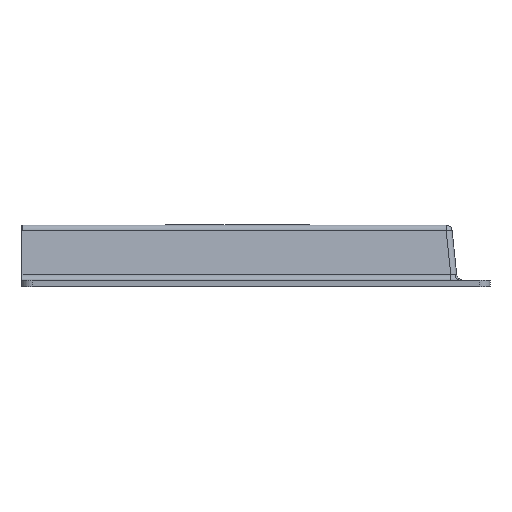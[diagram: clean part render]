
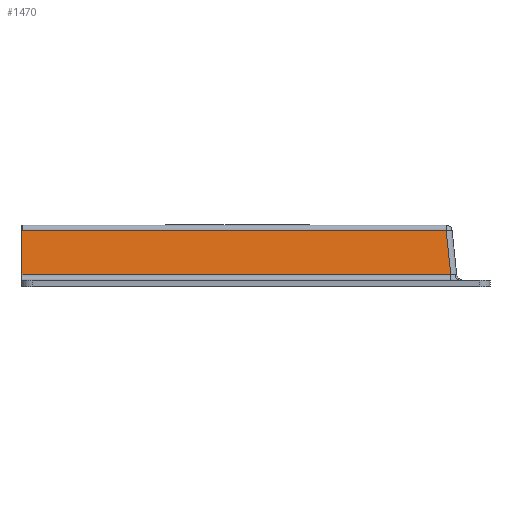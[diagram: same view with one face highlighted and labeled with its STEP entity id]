
A CAD part, left-side view. The second image highlights one B-rep face of the part: STEP entity #1470.
In plain terms, the highlighted planar face has unit normal (-0.995, 0, 0.104).
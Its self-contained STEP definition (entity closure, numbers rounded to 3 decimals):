
#55 = EDGE_CURVE ( 'NONE', #2757, #2841, #5740, .T. ) ;
#165 = EDGE_CURVE ( 'NONE', #2229, #2757, #2255, .T. ) ;
#223 = EDGE_CURVE ( 'NONE', #2808, #2229, #6186, .T. ) ;
#235 = EDGE_CURVE ( 'NONE', #2841, #2808, #6118, .T. ) ;
#594 = CARTESIAN_POINT ( 'NONE',  ( -112.35, -111.366, 6.186 ) ) ;
#971 = CARTESIAN_POINT ( 'NONE',  ( -110.024, -109.041, 28.314 ) ) ;
#1061 = CARTESIAN_POINT ( 'NONE',  ( -110.024, 103.014, 28.314 ) ) ;
#1080 = CARTESIAN_POINT ( 'NONE',  ( -112.35, 103.014, 6.186 ) ) ;
#1147 = VECTOR ( 'NONE', #6095, 1000. ) ;
#1226 = VECTOR ( 'NONE', #2124, 1000. ) ;
#1268 = VECTOR ( 'NONE', #5427, 1000. ) ;
#1343 = AXIS2_PLACEMENT_3D ( 'NONE', #5969, #6044, #5957 ) ;
#1424 = VECTOR ( 'NONE', #6175, 1000. ) ;
#1470 = ADVANCED_FACE ( 'NONE', ( #5974 ), #6043, .T. ) ;
#1693 = ORIENTED_EDGE ( 'NONE', *, *, #55, .T. ) ;
#2124 = DIRECTION ( 'NONE',  ( 0.104, 0.104, 0.989 ) ) ;
#2184 = CARTESIAN_POINT ( 'NONE',  ( -110.546, -109.563, 23.345 ) ) ;
#2229 = VERTEX_POINT ( 'NONE', #594 ) ;
#2255 = LINE ( 'NONE', #2184, #1226 ) ;
#2276 = ORIENTED_EDGE ( 'NONE', *, *, #165, .T. ) ;
#2757 = VERTEX_POINT ( 'NONE', #971 ) ;
#2808 = VERTEX_POINT ( 'NONE', #1080 ) ;
#2841 = VERTEX_POINT ( 'NONE', #1061 ) ;
#2902 = ORIENTED_EDGE ( 'NONE', *, *, #223, .T. ) ;
#2903 = ORIENTED_EDGE ( 'NONE', *, *, #235, .T. ) ;
#4767 = EDGE_LOOP ( 'NONE', ( #2903, #2902, #2276, #1693 ) ) ;
#5427 = DIRECTION ( 'NONE',  ( 0., 1., 0. ) ) ;
#5577 = CARTESIAN_POINT ( 'NONE',  ( -110.024, 103.014, 28.314 ) ) ;
#5740 = LINE ( 'NONE', #5577, #1268 ) ;
#5957 = DIRECTION ( 'NONE',  ( 0.105, 0., 0.995 ) ) ;
#5969 = CARTESIAN_POINT ( 'NONE',  ( -113., 115., 0. ) ) ;
#5974 = FACE_OUTER_BOUND ( 'NONE', #4767, .T. ) ;
#6043 = PLANE ( 'NONE',  #1343 ) ;
#6044 = DIRECTION ( 'NONE',  ( -0.995, 0., 0.105 ) ) ;
#6095 = DIRECTION ( 'NONE',  ( -0.105, 0., -0.995 ) ) ;
#6096 = CARTESIAN_POINT ( 'NONE',  ( -113., 103.014, 0. ) ) ;
#6118 = LINE ( 'NONE', #6096, #1147 ) ;
#6131 = CARTESIAN_POINT ( 'NONE',  ( -112.35, -111.649, 6.186 ) ) ;
#6175 = DIRECTION ( 'NONE',  ( 0., -1., 0. ) ) ;
#6186 = LINE ( 'NONE', #6131, #1424 ) ;
